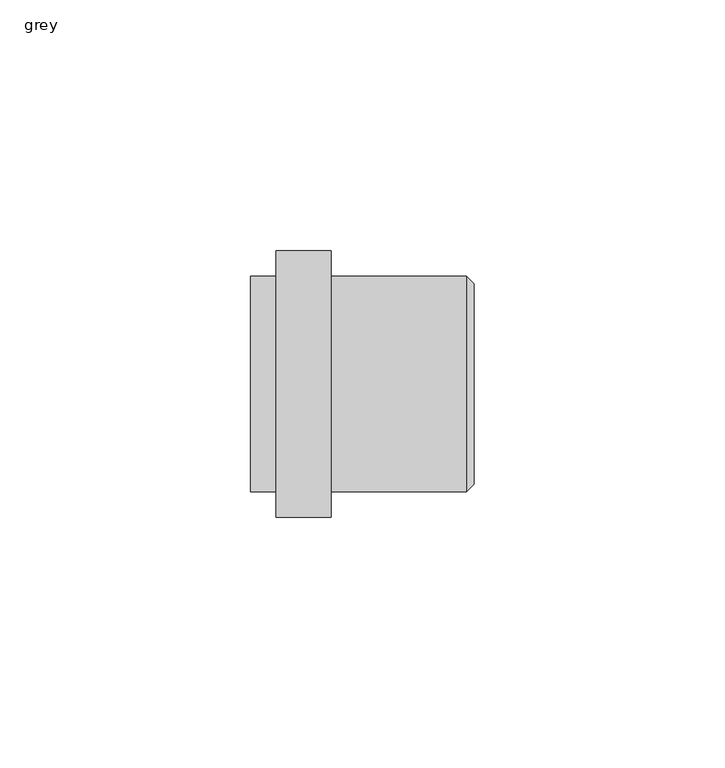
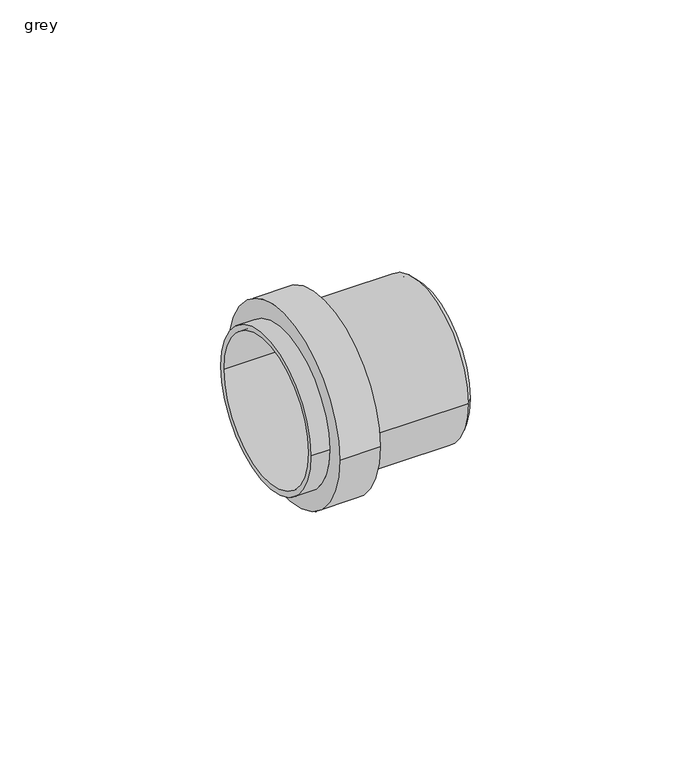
"""IFC4 building model written with IfcOpenShell, lengths in millimetres: pipe fitting geometry, PIF_UN_S&W PVC-HT Pipe Socket : grey."""

from ifc_helpers import new_model, si_unit, frame, origin, place, context, project, spatial, polyline, circle_curve, source, transform, mapped, element, save
from ifc_brep_helpers import plane_surface, cylinder_surface, revolved_surface, advanced_brep


def grey_8c20275c(model_context):
    return source(origin(), model_context, "Body", "AdvancedBrep", [
        advanced_brep(
        [(0.0, 21.5, 0.0), (0.0, -21.5, 0.0), (-27.0, -21.5, 0.0), (-27.0, 21.5, 0.0), (-27.0, 26.5, 0.0), (-27.0, -26.5, 0.0), (-38.0, -26.5, 0.0), (-38.0, 26.5, 0.0), (-38.0, 21.5, 0.0), (-38.0, -21.5, 0.0), (-43.0, -21.5, 0.0), (-43.0, 21.5, 0.0), (-43.0, 20.0, 0.0), (-43.0, -20.0, 0.0), (1.5, -20.0, 0.0), (1.5, 20.0, 0.0)],
        [
            (0, 1, circle_curve(frame((0.0, 0.0, 0.0), z_axis=(-1.0, 0.0, 0.0), x_axis=(0.0, -1.0, 0.0)), 21.5)),
            (1, 2),
            (2, 3, circle_curve(frame((-27.0, 0.0, 0.0), z_axis=(1.0, 0.0, 0.0), x_axis=(0.0, -1.0, 0.0)), 21.5)),
            (3, 0),
            (4, 5, circle_curve(frame((-27.0, 0.0, 0.0), z_axis=(-1.0, 0.0, 0.0), x_axis=(0.0, -1.0, 0.0)), 26.5)),
            (5, 6),
            (6, 7, circle_curve(frame((-38.0, 0.0, 0.0), z_axis=(1.0, 0.0, 0.0), x_axis=(0.0, -1.0, 0.0)), 26.5)),
            (7, 4),
            (8, 9, circle_curve(frame((-38.0, 0.0, 0.0), z_axis=(-1.0, 0.0, 0.0), x_axis=(0.0, -1.0, 0.0)), 21.5)),
            (9, 10),
            (10, 11, circle_curve(frame((-43.0, 0.0, 0.0), z_axis=(1.0, 0.0, 0.0), x_axis=(0.0, -1.0, 0.0)), 21.5)),
            (11, 8),
            (12, 13, circle_curve(frame((-43.0, 0.0, 0.0), z_axis=(-1.0, 0.0, 0.0), x_axis=(0.0, -1.0, 0.0)), 20.0)),
            (13, 14),
            (14, 15, circle_curve(frame((1.5, 0.0, 0.0), z_axis=(1.0, 0.0, 0.0), x_axis=(0.0, -1.0, 0.0)), 20.0)),
            (15, 12),
            (14, 1),
            (0, 15),
            (1, 0, circle_curve(frame((0.0, 0.0, 0.0), z_axis=(-1.0, 0.0, 0.0), x_axis=(0.0, 1.0, 0.0)), 21.5)),
            (3, 2, circle_curve(frame((-27.0, 0.0, 0.0), z_axis=(1.0, 0.0, 0.0), x_axis=(0.0, 1.0, 0.0)), 21.5)),
            (5, 4, circle_curve(frame((-27.0, 0.0, 0.0), z_axis=(-1.0, 0.0, 0.0), x_axis=(0.0, 1.0, 0.0)), 26.5)),
            (7, 6, circle_curve(frame((-38.0, 0.0, 0.0), z_axis=(1.0, 0.0, 0.0), x_axis=(0.0, 1.0, 0.0)), 26.5)),
            (9, 8, circle_curve(frame((-38.0, 0.0, 0.0), z_axis=(-1.0, 0.0, 0.0), x_axis=(0.0, 1.0, 0.0)), 21.5)),
            (11, 10, circle_curve(frame((-43.0, 0.0, 0.0), z_axis=(1.0, 0.0, 0.0), x_axis=(0.0, 1.0, 0.0)), 21.5)),
            (13, 12, circle_curve(frame((-43.0, 0.0, 0.0), z_axis=(-1.0, 0.0, 0.0), x_axis=(0.0, 1.0, 0.0)), 20.0)),
            (15, 14, circle_curve(frame((1.5, 0.0, 0.0), z_axis=(1.0, 0.0, 0.0), x_axis=(0.0, 1.0, 0.0)), 20.0)),
        ],
        [
            cylinder_surface(frame((0.0, 0.0, 0.0), z_axis=(1.0, 0.0, 0.0), x_axis=(0.0, -1.0, 0.0)), 21.5),
            cylinder_surface(frame((0.0, 0.0, 0.0), z_axis=(1.0, 0.0, 0.0), x_axis=(0.0, -1.0, 0.0)), 26.5),
            revolved_surface(polyline([(1.5, -20.0, 0.0), (-43.0, -20.0, 0.0)]), (0.0, 0.0, 0.0), (1.0, 0.0, 0.0)),
            revolved_surface(polyline([(0.0, -21.5, 0.0), (1.5, -20.0, 0.0)]), (0.0, 0.0, 0.0), (1.0, 0.0, 0.0)),
            cylinder_surface(frame((0.0, 0.0, 0.0), z_axis=(1.0, 0.0, 0.0), x_axis=(0.0, 1.0, 0.0)), 21.5),
            cylinder_surface(frame((0.0, 0.0, 0.0), z_axis=(1.0, 0.0, 0.0), x_axis=(0.0, 1.0, 0.0)), 26.5),
            revolved_surface(polyline([(1.5, 20.0, 0.0), (-43.0, 20.0, 0.0)]), (0.0, 0.0, 0.0), (1.0, 0.0, 0.0)),
            revolved_surface(polyline([(0.0, 21.5, 0.0), (1.5, 20.0, 0.0)]), (0.0, 0.0, 0.0), (1.0, 0.0, 0.0)),
            plane_surface(frame((-43.0, 0.0, 0.0), z_axis=(-1.0, 0.0, 0.0), x_axis=(0.0, 1.0, 0.0))),
            plane_surface(frame((-38.0, 0.0, 0.0), z_axis=(-1.0, 0.0, 0.0), x_axis=(0.0, 1.0, 0.0))),
            plane_surface(frame((-27.0, 0.0, 0.0), z_axis=(1.0, 0.0, 0.0), x_axis=(0.0, 1.0, 0.0))),
        ],
        [
            (0, [[1, 2, 3, 4]]),
            (1, [[5, 6, 7, 8]]),
            (0, [[9, 10, 11, 12]]),
            (2, [[13, 14, 15, 16]]),
            (3, [[-15, 17, -1, 18]]),
            (4, [[19, -4, 20, -2]]),
            (5, [[21, -8, 22, -6]]),
            (4, [[23, -12, 24, -10]]),
            (6, [[25, -16, 26, -14]]),
            (7, [[-26, -18, -19, -17]]),
            (8, [[-24, -11], [-25, -13]]),
            (9, [[-22, -7], [-23, -9]]),
            (10, [[-21, -5], [-20, -3]]),
        ],
    ),
    ])


if __name__ == "__main__":
    model = new_model("IFC4")
    model_context = context("Model", 3, world=origin())
    ifc_project = project(units=[si_unit("LENGTHUNIT", "METRE", prefix="MILLI")], contexts=[model_context])
    site = spatial("IfcSite", under=ifc_project)
    building = spatial("IfcBuilding", under=site)
    placement = place(None, origin())
    grey_shape = grey_8c20275c(model_context)
    element("IfcPipeFitting", 1, ObjectType="PIF_UN_S&W PVC-HT Pipe Socket : grey", at=placement, inside=building, context=model_context, shape_type="MappedRepresentation", body=[
        mapped(grey_shape, transform((0.0, 0.0, 0.0), x_axis=(1.0, 0.0, 0.0), y_axis=(0.0, 1.0, 0.0), z_axis=(0.0, 0.0, 1.0))),
    ])
    save(model, "model.ifc")
